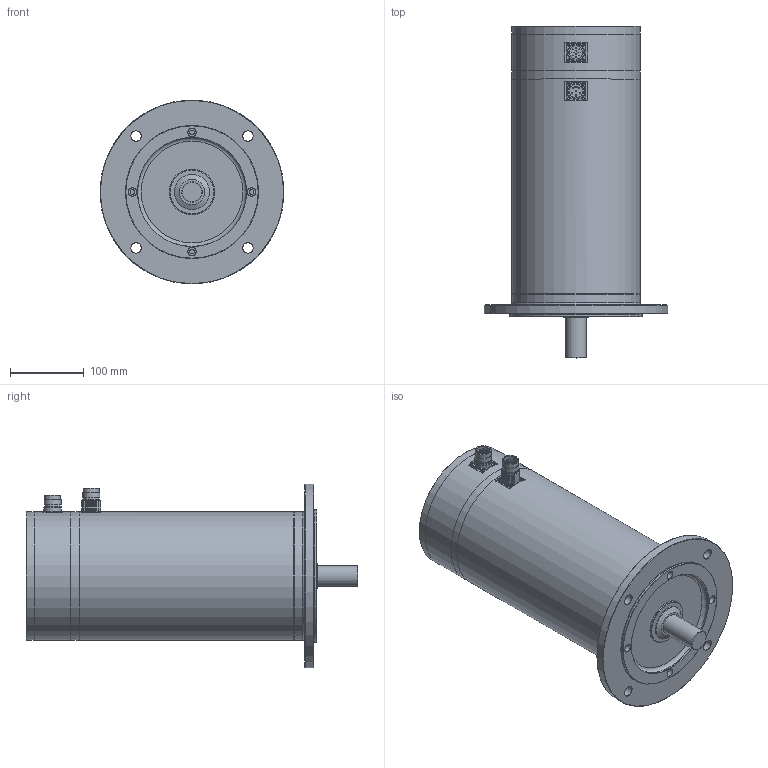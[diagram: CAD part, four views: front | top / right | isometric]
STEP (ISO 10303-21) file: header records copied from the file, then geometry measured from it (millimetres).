
FILE_DESCRIPTION(/* description */ (''),/* implementation_level */ '2;1');
FILE_NAME(/* name */ 'ksa_8x16e_ixx',/* time_stamp */ '2007-03-14T10:21:19+01:00',/* author */ (''),/* organization */ (''),/* preprocessor_version */ 'ST-DEVELOPER v8',/* originating_system */ 'UNIGRAPHICS SOLUTIONS - UNIGRAPHICS 18.0',/* authorisation */ '');
FILE_SCHEMA (('AUTOMOTIVE_DESIGN { 1 2 10303 214 0 1 1 1 }'));
Length unit declared in the file: millimetre
Products named in the file (11): 014261_0; 064305_0; 089286_0; 118030_0; 014260_0; 06331401_0; DIN3760_org_A30x42x7_0; Rotor_SA 84.. E_0; Gehaeuse SA 84.. E_0; 118025_0; KSA8412_E-I27_0
Assembly tree (10 placements, depth 2):
  KSA8412_E-I27_0
    118025_0
    Gehaeuse SA 84.. E_0
    Rotor_SA 84.. E_0
    DIN3760_org_A30x42x7_0
    06331401_0
    014260_0
    118030_0
    089286_0
    064305_0
    014261_0
Bounding box: 250 x 451 x 250 mm (x, y, z)
Volume: 3685750.1 mm3; surface area: 667774 mm2
Topology: 10 solids, 10 shells, 293 faces, 722 edges, 458 vertices
Faces by surface type: cylinder 143, plane 77, cone 35, sphere 20, torus 18
Full cylindrical faces by diameter (mm): 1 x16, 2 x4, 2.7 x8, 6.4 x4, 11 x4, 14 x4, 18 x2, 20 x4, 21 x2, 21.5 x2, 23 x4, 24 x1, 27.52 x1, 27.9 x1, 28 x1, 30 x2, 30.3 x1, 38 x1, 39 x1, 42 x2, 48 x1, 56 x1, 60 x1, 62 x1, 140 x1, 148 x1, 150 x1, 151 x2, 174 x5, 180 x1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
Entity records: 7656 total; most frequent: DIRECTION 1426, CARTESIAN_POINT 1234, ORIENTED_EDGE 938, AXIS2_PLACEMENT_3D 656, EDGE_LOOP 525, EDGE_CURVE 469, VERTEX_POINT 382, CIRCLE 352
